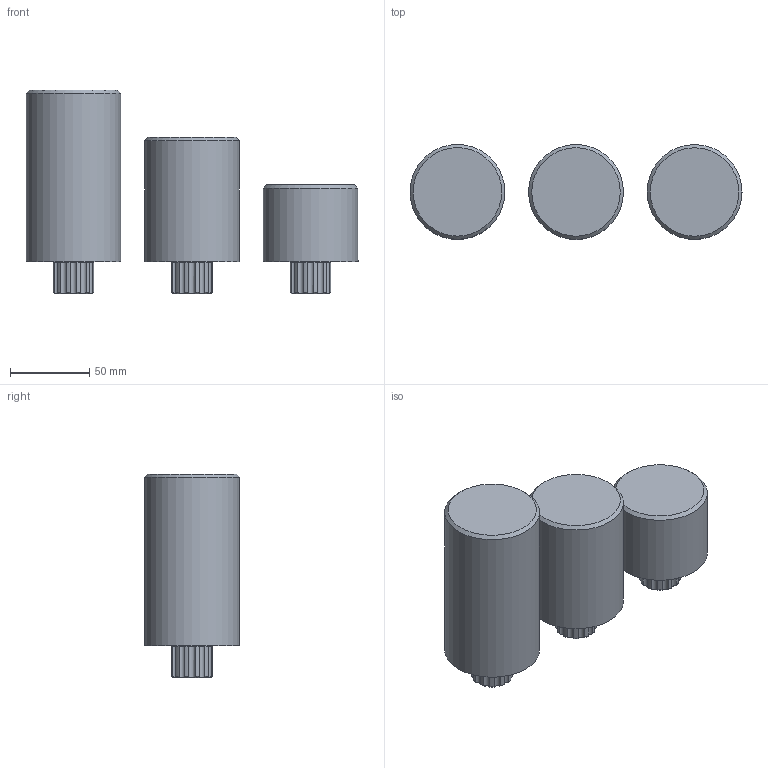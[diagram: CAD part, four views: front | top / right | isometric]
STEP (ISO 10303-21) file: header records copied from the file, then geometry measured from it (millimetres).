
FILE_DESCRIPTION(/* description */ (''),/* implementation_level */ '2;1');
FILE_NAME(/* name */ (''),/* time_stamp */ (''),/* author */ (''),/* organization */ (''),/* preprocessor_version */ 'ST-DEVELOPER v19.2',/* originating_system */ 'Autodesk Translation Framework v11.17.0.187',/* authorisation */ '');
FILE_SCHEMA (('AUTOMOTIVE_DESIGN { 1 0 10303 214 3 1 1 }'));
Length unit declared in the file: millimetre
Products named in the file (1): Print in Place Puzzle
Bounding box: 210 x 60 x 129 mm (x, y, z)
Volume: 374849.4 mm3; surface area: 171842.2 mm2
Topology: 15 solids, 15 shells, 1008 faces, 2722 edges, 1762 vertices
Faces by surface type: plane 363, cylinder 351, cone 282, bspline 12
Full cylindrical faces by diameter (mm): 13.334 x24, 14.223 x3, 15.622 x21, 16 x6, 17 x6, 49 x3, 50 x2, 60 x3
Entity records: 40381 total; most frequent: CARTESIAN_POINT 16062, ORIENTED_EDGE 5444, DIRECTION 4939, EDGE_CURVE 2722, AXIS2_PLACEMENT_3D 1961, VERTEX_POINT 1762, EDGE_LOOP 1056, LINE 1017
